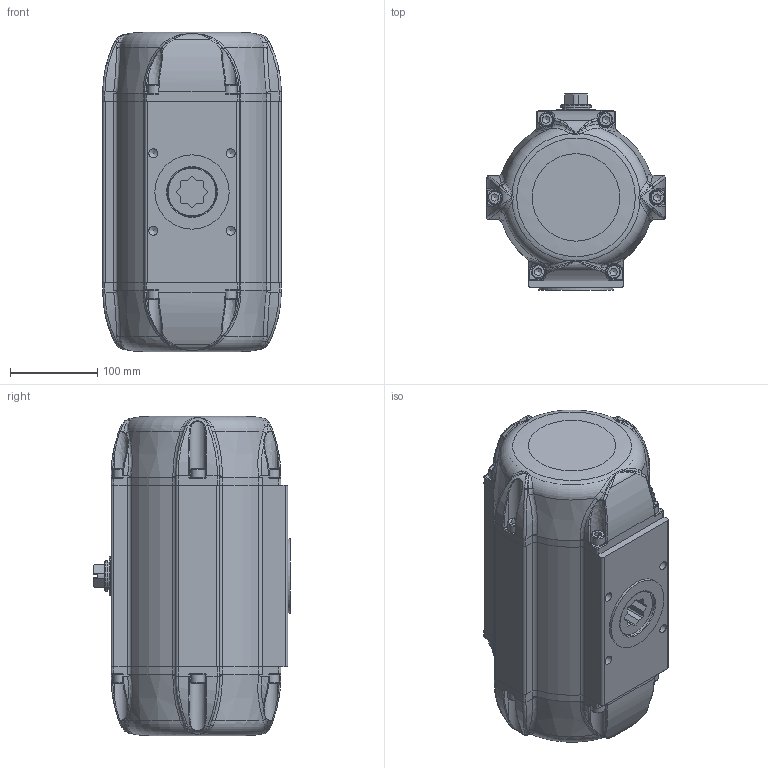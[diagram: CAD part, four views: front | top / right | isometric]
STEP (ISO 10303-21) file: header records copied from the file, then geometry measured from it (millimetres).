
FILE_DESCRIPTION((''),'2;1');
FILE_NAME('C:\Dokumente und Einstellungen\kir\Desktop\STEP IGES\SAF\SAF 33 BR03.stp','2006-12-19T11:32:39',('kir'),(''),'Autodesk Inventor 10','Autodesk Inventor 10','');
FILE_SCHEMA(('AUTOMOTIVE_DESIGN { 1 0 10303 214 1 1 1 1 }'));
Length unit declared in the file: millimetre
Products named in the file (1): ENG-039900
Bounding box: 204 x 225 x 365.2 mm (x, y, z)
Volume: 2582171.4 mm3; surface area: 573453.9 mm2
Topology: 27 solids, 27 shells, 1034 faces, 2534 edges, 1562 vertices
Faces by surface type: bspline 325, cylinder 301, plane 300, cone 60, torus 48
Full cylindrical faces by diameter (mm): 8.376 x6, 10 x12, 10.5 x6, 16 x12, 26 x1, 30.8 x2, 31 x1, 32.5 x1, 34.8 x3, 35.1 x2, 36.5 x1, 40 x1, 45 x2, 50.9 x1, 51 x1, 55.8 x3, 85 x1, 161 x1, 165 x1, 170.959 x1, 171.689 x1
Entity records: 50593 total; most frequent: CARTESIAN_POINT 29476, ORIENTED_EDGE 4412, DIRECTION 3970, EDGE_CURVE 2206, AXIS2_PLACEMENT_3D 1638, VERTEX_POINT 1430, EDGE_LOOP 1286, FACE_OUTER_BOUND 1034
